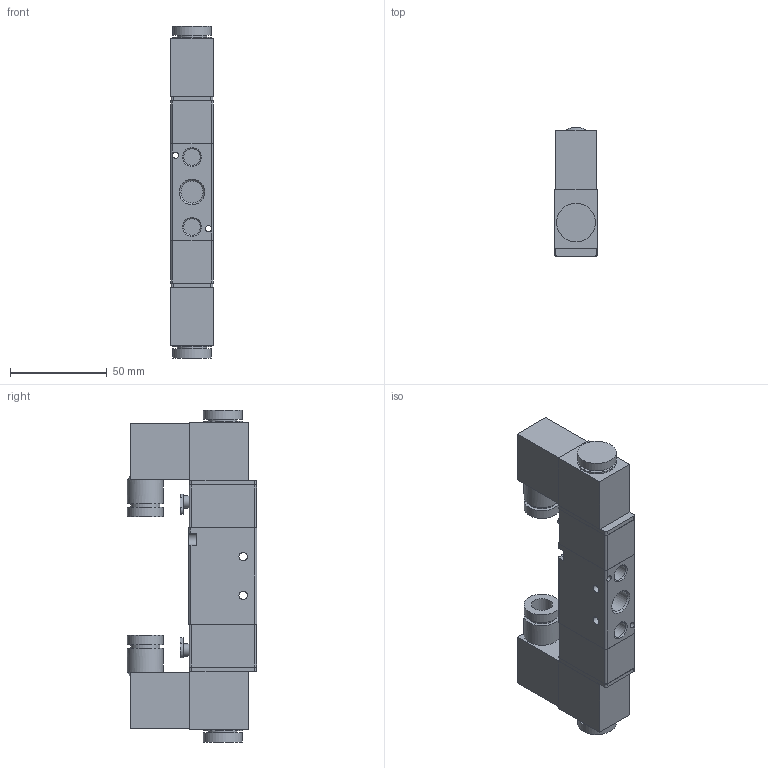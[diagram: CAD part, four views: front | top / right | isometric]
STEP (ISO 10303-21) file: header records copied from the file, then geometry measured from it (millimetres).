
FILE_DESCRIPTION( ( 'STEP AP214' ), '1' );
FILE_NAME( 'C:/Users/emc02044/Desktop/RV五通/RV5222-08E9.stp', '2026-07-31T08:02:05', ( 'License CC BY-ND 4.0' ), ( 'CADENAS' ), ' ', 'PARTsolutions', ' ' );
FILE_SCHEMA( ( 'AUTOMOTIVE_DESIGN { 1 0 10303 214 1 1 1 1 }' ) );
Length unit declared in the file: millimetre
Products named in the file (1): _RV5222-08E9
Bounding box: 22 x 66.8 x 171.4 mm (x, y, z)
Volume: 157471.1 mm3; surface area: 33370 mm2
Topology: 1 solids, 1 shells, 145 faces, 341 edges, 223 vertices
Faces by surface type: plane 85, cylinder 53, cone 7
Full cylindrical faces by diameter (mm): 3.2 x2, 4.3 x2, 6.5 x2, 8.566 x2, 10.8 x2, 11.445 x3, 15 x4, 18.6 x4, 20 x4
Entity records: 5192 total; most frequent: CARTESIAN_POINT 726, DIRECTION 708, ORIENTED_EDGE 606, EDGE_CURVE 303, AXIS2_PLACEMENT_3D 263, VERTEX_POINT 215, EDGE_LOOP 208, LINE 182
